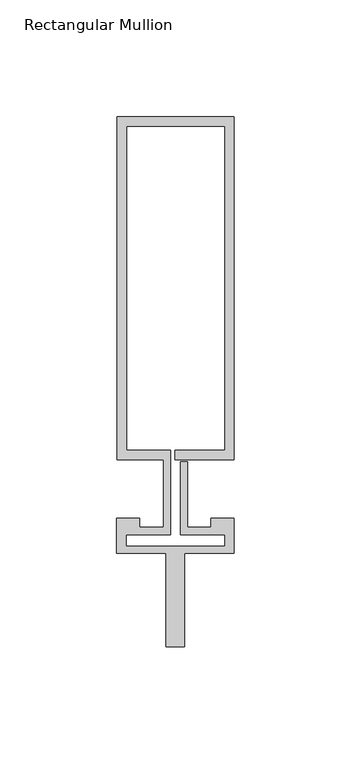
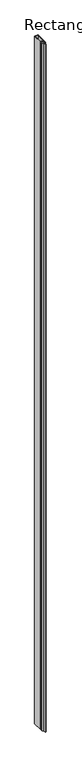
"""IFC4 building model written with IfcOpenShell, lengths in millimetres: member geometry, Rectangular Mullion : Reynaers_CW-50_Mullion-Transom_Vertical_146.5mm_Facecap-06B."""

from ifc_helpers import new_model, si_unit, frame, origin, place, context, project, spatial, polyline, outline, extrude, source, transform, mapped, element, save


def rectangular_mullion_f663b6eb(model_context):
    return source(origin(), model_context, "Body", "SweptSolid", [
        extrude(outline(polyline([(-24.8004059, 159.0), (25.1995941, 159.0), (25.1995941, 12.5), (0.0, 12.5), (0.0, 16.5), (21.1995941, 16.5), (21.1995941, 155.0), (-20.8004059, 155.0), (-20.8004059, 16.5), (-1.9004059, 16.5), (-1.9004059, -19.5), (-20.994845, -19.5), (-20.994845, -24.4191338), (21.1995941, -24.4191338), (21.1995941, -19.5), (2.2995941, -19.5), (2.2995941, 11.5), (5.2995941, 11.5), (5.2995941, -16.5), (15.2996495, -16.5), (15.2996495, -12.5), (25.1995941, -12.5), (25.1995941, -27.5), (4.004855, -27.5), (4.004855, -67.5), (-3.995145, -67.5), (-3.995145, -27.5), (-24.994845, -27.5), (-24.994845, -12.5), (-15.2996495, -12.5), (-15.2996495, -16.5), (-4.9004059, -16.5), (-4.9004059, 12.5), (-24.8004059, 12.5), (-24.8004059, 159.0)])), frame((0.0, 0.0, -10400.0), z_axis=(0.0, 0.0, 1.0), x_axis=(1.0, 0.0, 0.0)), (0.0, 0.0, 1.0), 10400.0),
    ])


if __name__ == "__main__":
    model = new_model("IFC4")
    model_context = context("Model", 3, world=origin())
    ifc_project = project(units=[si_unit("LENGTHUNIT", "METRE", prefix="MILLI")], contexts=[model_context])
    site = spatial("IfcSite", under=ifc_project)
    building = spatial("IfcBuilding", under=site)
    placement = place(None, origin())
    rectangular_mullion_shape = rectangular_mullion_f663b6eb(model_context)
    element("IfcMember", 1, ObjectType="Rectangular Mullion : Reynaers_CW-50_Mullion-Transom_Vertical_146.5mm_Facecap-06B", at=placement, inside=building, context=model_context, shape_type="MappedRepresentation", body=[
        mapped(rectangular_mullion_shape, transform((0.0, 0.0, 0.0), x_axis=(1.0, 0.0, 0.0), y_axis=(0.0, 1.0, 0.0), z_axis=(0.0, 0.0, 1.0))),
    ])
    save(model, "model.ifc")
